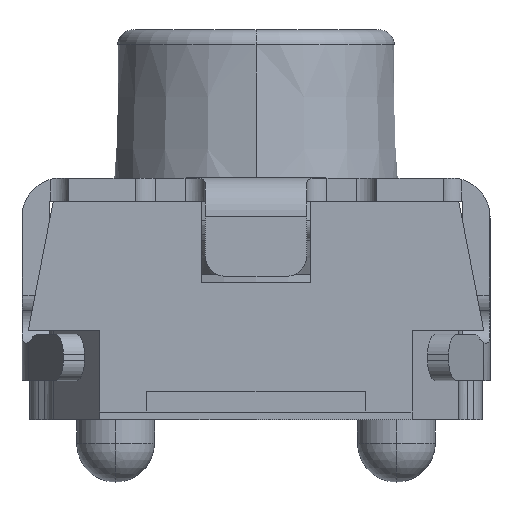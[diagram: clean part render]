
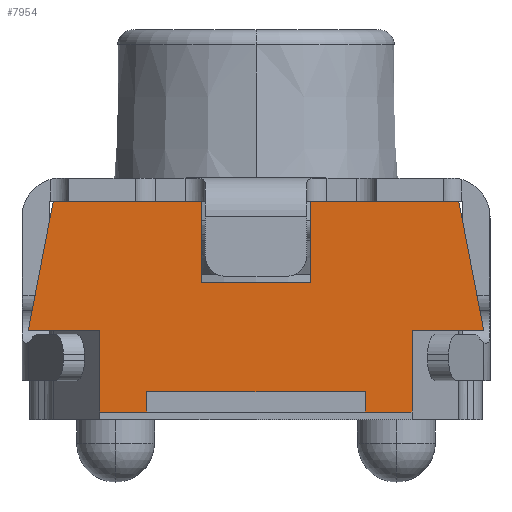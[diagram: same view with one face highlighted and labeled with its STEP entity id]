
A CAD part, left-side view. The second image highlights one B-rep face of the part: STEP entity #7954.
In plain terms, the highlighted planar face has unit normal (-1, 0, 0).
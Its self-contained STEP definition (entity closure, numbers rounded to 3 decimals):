
#4936=DIRECTION('',(0.,1.,0.));
#4937=VECTOR('',#4936,0.95);
#4938=CARTESIAN_POINT('',(-1.95,17.4,-0.04));
#4939=LINE('',#4938,#4937);
#5003=DIRECTION('',(0.,1.,0.));
#5004=VECTOR('',#5003,0.95);
#5005=CARTESIAN_POINT('',(-1.95,19.05,-0.04));
#5006=LINE('',#5005,#5004);
#5444=DIRECTION('',(0.,0.,1.));
#5445=VECTOR('',#5444,0.52);
#5446=CARTESIAN_POINT('',(-1.95,18.35,-0.56));
#5447=LINE('',#5446,#5445);
#5458=DIRECTION('',(0.,0.189,0.982));
#5459=VECTOR('',#5458,0.845);
#5460=CARTESIAN_POINT('',(-1.95,17.24,-0.87));
#5461=LINE('',#5460,#5459);
#5465=DIRECTION('',(0.,-1.,0.));
#5466=VECTOR('',#5465,0.3);
#5467=CARTESIAN_POINT('',(-1.95,18.,-1.39));
#5468=LINE('',#5467,#5466);
#5472=DIRECTION('',(0.,-1.,0.));
#5473=VECTOR('',#5472,0.3);
#5474=CARTESIAN_POINT('',(-1.95,19.7,-1.39));
#5475=LINE('',#5474,#5473);
#5479=DIRECTION('',(0.,-1.,0.));
#5480=VECTOR('',#5479,0.46);
#5481=CARTESIAN_POINT('',(-1.95,20.16,-0.87));
#5482=LINE('',#5481,#5480);
#5486=DIRECTION('',(0.,0.189,-0.982));
#5487=VECTOR('',#5486,0.845);
#5488=CARTESIAN_POINT('',(-1.95,20.,-0.04));
#5489=LINE('',#5488,#5487);
#5493=DIRECTION('',(0.,1.,0.));
#5494=VECTOR('',#5493,0.7);
#5495=CARTESIAN_POINT('',(-1.95,18.35,-0.56));
#5496=LINE('',#5495,#5494);
#5656=DIRECTION('',(0.,0.,-1.));
#5657=VECTOR('',#5656,0.52);
#5658=CARTESIAN_POINT('',(-1.95,19.05,-0.04));
#5659=LINE('',#5658,#5657);
#5691=DIRECTION('',(0.,0.,1.));
#5692=VECTOR('',#5691,0.52);
#5693=CARTESIAN_POINT('',(-1.95,19.7,-1.39));
#5694=LINE('',#5693,#5692);
#5712=DIRECTION('',(0.,0.,1.));
#5713=VECTOR('',#5712,0.13);
#5714=CARTESIAN_POINT('',(-1.95,18.,-1.39));
#5715=LINE('',#5714,#5713);
#5747=DIRECTION('',(0.,1.,0.));
#5748=VECTOR('',#5747,1.4);
#5749=CARTESIAN_POINT('',(-1.95,18.,-1.26));
#5750=LINE('',#5749,#5748);
#5768=DIRECTION('',(0.,0.,-1.));
#5769=VECTOR('',#5768,0.13);
#5770=CARTESIAN_POINT('',(-1.95,19.4,-1.26));
#5771=LINE('',#5770,#5769);
#5789=DIRECTION('',(0.,0.,-1.));
#5790=VECTOR('',#5789,0.52);
#5791=CARTESIAN_POINT('',(-1.95,17.7,-0.87));
#5792=LINE('',#5791,#5790);
#5838=DIRECTION('',(0.,1.,0.));
#5839=VECTOR('',#5838,0.46);
#5840=CARTESIAN_POINT('',(-1.95,17.24,-0.87));
#5841=LINE('',#5840,#5839);
#7041=CARTESIAN_POINT('',(-1.95,18.35,-0.56));
#7042=CARTESIAN_POINT('',(-1.95,19.05,-0.56));
#7043=VERTEX_POINT('',#7041);
#7044=VERTEX_POINT('',#7042);
#7069=CARTESIAN_POINT('',(-1.95,20.,-0.04));
#7070=CARTESIAN_POINT('',(-1.95,20.16,-0.87));
#7071=VERTEX_POINT('',#7069);
#7072=VERTEX_POINT('',#7070);
#7073=CARTESIAN_POINT('',(-1.95,19.7,-0.87));
#7074=VERTEX_POINT('',#7073);
#7075=CARTESIAN_POINT('',(-1.95,19.7,-1.39));
#7076=VERTEX_POINT('',#7075);
#7077=CARTESIAN_POINT('',(-1.95,17.7,-0.87));
#7078=CARTESIAN_POINT('',(-1.95,17.7,-1.39));
#7079=VERTEX_POINT('',#7077);
#7080=VERTEX_POINT('',#7078);
#7081=CARTESIAN_POINT('',(-1.95,17.24,-0.87));
#7082=VERTEX_POINT('',#7081);
#7083=CARTESIAN_POINT('',(-1.95,17.4,-0.04));
#7084=VERTEX_POINT('',#7083);
#7085=CARTESIAN_POINT('',(-1.95,18.35,-0.04));
#7086=VERTEX_POINT('',#7085);
#7087=CARTESIAN_POINT('',(-1.95,19.05,-0.04));
#7088=VERTEX_POINT('',#7087);
#7097=CARTESIAN_POINT('',(-1.95,19.4,-1.26));
#7098=CARTESIAN_POINT('',(-1.95,19.4,-1.39));
#7099=VERTEX_POINT('',#7097);
#7100=VERTEX_POINT('',#7098);
#7101=CARTESIAN_POINT('',(-1.95,18.,-1.39));
#7102=CARTESIAN_POINT('',(-1.95,18.,-1.26));
#7103=VERTEX_POINT('',#7101);
#7104=VERTEX_POINT('',#7102);
#7919=CARTESIAN_POINT('',(-1.95,20.15,-0.04));
#7920=DIRECTION('',(-1.,0.,0.));
#7921=DIRECTION('',(0.,0.,1.));
#7922=AXIS2_PLACEMENT_3D('',#7919,#7920,#7921);
#7923=PLANE('',#7922);
#7924=ORIENTED_EDGE('',*,*,#7524,.F.);
#7926=ORIENTED_EDGE('',*,*,#7925,.F.);
#7928=ORIENTED_EDGE('',*,*,#7927,.T.);
#7930=ORIENTED_EDGE('',*,*,#7929,.T.);
#7932=ORIENTED_EDGE('',*,*,#7931,.F.);
#7934=ORIENTED_EDGE('',*,*,#7933,.T.);
#7936=ORIENTED_EDGE('',*,*,#7935,.T.);
#7938=ORIENTED_EDGE('',*,*,#7937,.T.);
#7940=ORIENTED_EDGE('',*,*,#7939,.F.);
#7942=ORIENTED_EDGE('',*,*,#7941,.T.);
#7944=ORIENTED_EDGE('',*,*,#7943,.F.);
#7946=ORIENTED_EDGE('',*,*,#7945,.F.);
#7947=ORIENTED_EDGE('',*,*,#7596,.F.);
#7949=ORIENTED_EDGE('',*,*,#7948,.T.);
#7950=ORIENTED_EDGE('',*,*,#7435,.F.);
#7951=ORIENTED_EDGE('',*,*,#7913,.T.);
#7952=EDGE_LOOP('',(#7924,#7926,#7928,#7930,#7932,#7934,#7936,#7938,#7940,#7942,
#7944,#7946,#7947,#7949,#7950,#7951));
#7953=FACE_OUTER_BOUND('',#7952,.F.);
#7435=EDGE_CURVE('',#7043,#7044,#5496,.T.);
#7524=EDGE_CURVE('',#7084,#7086,#4939,.T.);
#7596=EDGE_CURVE('',#7088,#7071,#5006,.T.);
#7913=EDGE_CURVE('',#7043,#7086,#5447,.T.);
#7925=EDGE_CURVE('',#7082,#7084,#5461,.T.);
#7927=EDGE_CURVE('',#7082,#7079,#5841,.T.);
#7929=EDGE_CURVE('',#7079,#7080,#5792,.T.);
#7931=EDGE_CURVE('',#7103,#7080,#5468,.T.);
#7933=EDGE_CURVE('',#7103,#7104,#5715,.T.);
#7935=EDGE_CURVE('',#7104,#7099,#5750,.T.);
#7937=EDGE_CURVE('',#7099,#7100,#5771,.T.);
#7939=EDGE_CURVE('',#7076,#7100,#5475,.T.);
#7941=EDGE_CURVE('',#7076,#7074,#5694,.T.);
#7943=EDGE_CURVE('',#7072,#7074,#5482,.T.);
#7945=EDGE_CURVE('',#7071,#7072,#5489,.T.);
#7948=EDGE_CURVE('',#7088,#7044,#5659,.T.);
#7954=ADVANCED_FACE('',(#7953),#7923,.T.);
